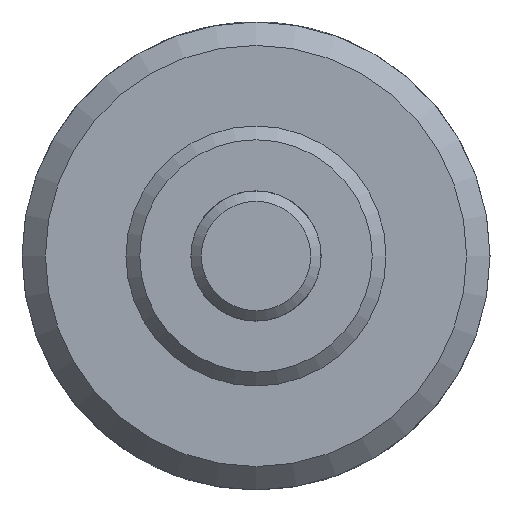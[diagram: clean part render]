
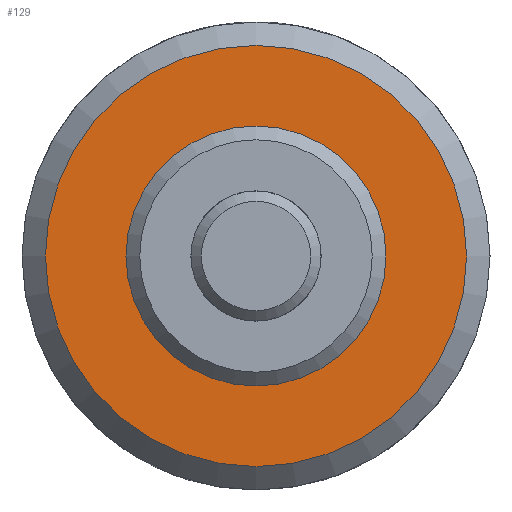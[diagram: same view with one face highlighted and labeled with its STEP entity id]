
A CAD part, left-side view. The second image highlights one B-rep face of the part: STEP entity #129.
In plain terms, the highlighted planar face has unit normal (-1, 0, 0).
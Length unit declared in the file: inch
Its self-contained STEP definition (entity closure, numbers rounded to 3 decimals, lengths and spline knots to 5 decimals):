
#129 = ADVANCED_FACE( '', ( #277, #278 ), #279, .F. );
#277 = FACE_OUTER_BOUND( '', #475, .T. );
#278 = FACE_BOUND( '', #476, .T. );
#279 = PLANE( '', #477 );
#475 = EDGE_LOOP( '', ( #685 ) );
#476 = EDGE_LOOP( '', ( #686 ) );
#477 = AXIS2_PLACEMENT_3D( '', #687, #688, #689 );
#685 = ORIENTED_EDGE( '', *, *, #1020, .F. );
#686 = ORIENTED_EDGE( '', *, *, #1021, .T. );
#687 = CARTESIAN_POINT( '', ( 0.5, 0.312, 0. ) );
#688 = DIRECTION( '', ( 1., 0., 0. ) );
#689 = DIRECTION( '', ( 0., 0., -1. ) );
#1020 = EDGE_CURVE( '', #1167, #1167, #1168, .T. );
#1021 = EDGE_CURVE( '', #1169, #1169, #1170, .T. );
#1167 = VERTEX_POINT( '', #1364 );
#1168 = CIRCLE( '', #1365, 0.50625 );
#1169 = VERTEX_POINT( '', #1366 );
#1170 = CIRCLE( '', #1367, 0.312 );
#1364 = CARTESIAN_POINT( '', ( 0.5, 0., -0.50625 ) );
#1365 = AXIS2_PLACEMENT_3D( '', #1638, #1639, #1640 );
#1366 = CARTESIAN_POINT( '', ( 0.5, 0., -0.312 ) );
#1367 = AXIS2_PLACEMENT_3D( '', #1641, #1642, #1643 );
#1638 = CARTESIAN_POINT( '', ( 0.5, 0., 0. ) );
#1639 = DIRECTION( '', ( 1., 0., 0. ) );
#1640 = DIRECTION( '', ( 0., 0., -1. ) );
#1641 = CARTESIAN_POINT( '', ( 0.5, 0., 0. ) );
#1642 = DIRECTION( '', ( 1., 0., 0. ) );
#1643 = DIRECTION( '', ( 0., 0., -1. ) );
